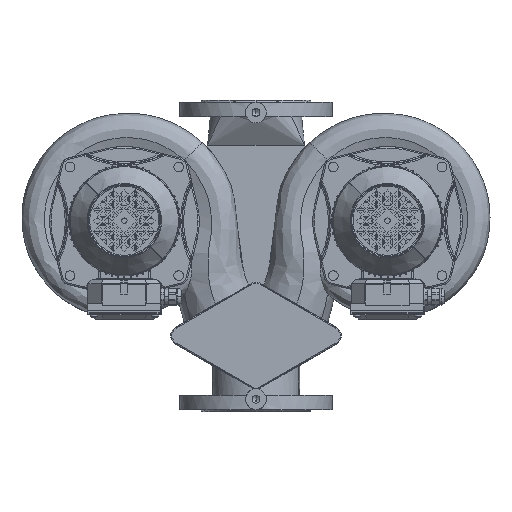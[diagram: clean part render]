
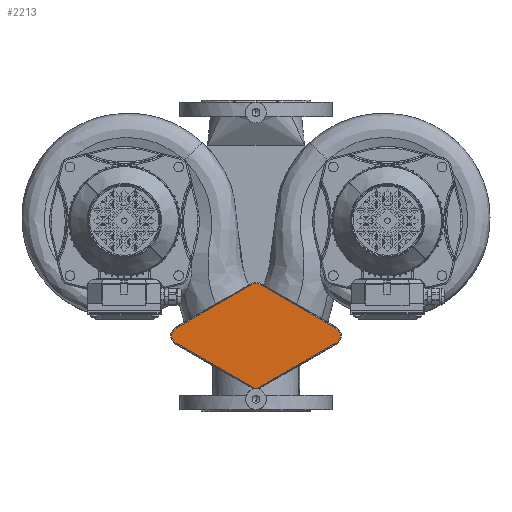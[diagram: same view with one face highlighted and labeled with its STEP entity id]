
A CAD part, top view. The second image highlights one B-rep face of the part: STEP entity #2213.
In plain terms, the highlighted planar face has unit normal (0, 0, 1).
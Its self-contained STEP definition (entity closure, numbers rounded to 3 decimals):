
#2213=ADVANCED_FACE('',(#4302),#4303,.T.);
#4302=FACE_OUTER_BOUND('',#11726,.T.);
#4303=PLANE('',#11727);
#11726=EDGE_LOOP('',(#21323,#21324,#21325,#21326,#21327,#21328,#21329,#21330,#21331,#21332,#21333,#21334));
#11727=AXIS2_PLACEMENT_3D('',#21335,#21336,#21337);
#21323=ORIENTED_EDGE('',*,*,#41713,.F.);
#21324=ORIENTED_EDGE('',*,*,#42427,.F.);
#21325=ORIENTED_EDGE('',*,*,#42414,.F.);
#21326=ORIENTED_EDGE('',*,*,#41724,.F.);
#21327=ORIENTED_EDGE('',*,*,#41728,.F.);
#21328=ORIENTED_EDGE('',*,*,#42410,.F.);
#21329=ORIENTED_EDGE('',*,*,#41734,.F.);
#21330=ORIENTED_EDGE('',*,*,#41738,.F.);
#21331=ORIENTED_EDGE('',*,*,#42406,.F.);
#21332=ORIENTED_EDGE('',*,*,#41743,.F.);
#21333=ORIENTED_EDGE('',*,*,#41717,.F.);
#21334=ORIENTED_EDGE('',*,*,#42425,.F.);
#21335=CARTESIAN_POINT('',(7.,240.124,65.0));
#21336=DIRECTION('',(0.0,0.0,1.0));
#21337=DIRECTION('',(1.0,0.0,0.0));
#41713=EDGE_CURVE('',#62265,#62267,#62268,.T.);
#41717=EDGE_CURVE('',#62271,#62274,#62275,.T.);
#41724=EDGE_CURVE('',#62285,#62287,#62288,.T.);
#41728=EDGE_CURVE('',#62291,#62285,#62294,.T.);
#41734=EDGE_CURVE('',#62302,#62304,#62305,.T.);
#41738=EDGE_CURVE('',#62308,#62302,#62311,.T.);
#41743=EDGE_CURVE('',#62274,#62318,#62319,.T.);
#42406=EDGE_CURVE('',#62318,#62308,#63223,.T.);
#42410=EDGE_CURVE('',#62304,#62291,#63227,.T.);
#42414=EDGE_CURVE('',#62287,#63231,#63232,.T.);
#42425=EDGE_CURVE('',#62267,#62271,#63246,.T.);
#42427=EDGE_CURVE('',#63231,#62265,#63248,.T.);
#62265=VERTEX_POINT('',#69921);
#62267=VERTEX_POINT('',#69934);
#62268=LINE('',#69935,#69936);
#62271=VERTEX_POINT('',#69939);
#62274=VERTEX_POINT('',#69942);
#62275=CIRCLE('',#69943,12.5);
#62285=VERTEX_POINT('',#69954);
#62287=VERTEX_POINT('',#69956);
#62288=LINE('',#69957,#69958);
#62291=VERTEX_POINT('',#69970);
#62294=CIRCLE('',#69973,12.5);
#62302=VERTEX_POINT('',#69982);
#62304=VERTEX_POINT('',#69984);
#62305=LINE('',#69985,#69986);
#62308=VERTEX_POINT('',#69989);
#62311=CIRCLE('',#69992,12.5);
#62318=VERTEX_POINT('',#70000);
#62319=LINE('',#70001,#70002);
#63223=CIRCLE('',#72768,12.5);
#63227=CIRCLE('',#72772,12.5);
#63231=VERTEX_POINT('',#72785);
#63232=CIRCLE('',#72786,14.0);
#63246=CIRCLE('',#72804,12.5);
#63248=CIRCLE('',#72806,14.0);
#69921=CARTESIAN_POINT('',(0.79,241.978,65.0));
#69934=CARTESIAN_POINT('',(115.25,175.894,65.0));
#69935=CARTESIAN_POINT('',(6.25,238.825,65.0));
#69936=VECTOR('',#83552,1.0);
#69939=CARTESIAN_POINT('',(121.5,165.069,65.0));
#69942=CARTESIAN_POINT('',(115.25,154.244,65.0));
#69943=AXIS2_PLACEMENT_3D('',#83559,#83560,#83561);
#69954=CARTESIAN_POINT('',(-115.25,175.894,65.0));
#69956=CARTESIAN_POINT('',(-0.79,241.978,65.0));
#69957=CARTESIAN_POINT('',(-55.5,210.391,65.0));
#69958=VECTOR('',#83575,1.);
#69970=CARTESIAN_POINT('',(-121.5,165.069,65.0));
#69973=AXIS2_PLACEMENT_3D('',#83579,#83580,#83581);
#69982=CARTESIAN_POINT('',(-6.25,91.312,65.0));
#69984=CARTESIAN_POINT('',(-115.25,154.244,65.0));
#69985=CARTESIAN_POINT('',(-33.5,107.045,65.0));
#69986=VECTOR('',#83592,1.);
#69989=CARTESIAN_POINT('',(0.,89.638,65.0));
#69992=AXIS2_PLACEMENT_3D('',#83599,#83600,#83601);
#70000=CARTESIAN_POINT('',(6.25,91.312,65.0));
#70001=CARTESIAN_POINT('',(93.25,141.542,65.0));
#70002=VECTOR('',#83609,1.0);
#72768=AXIS2_PLACEMENT_3D('',#84047,#84048,#84049);
#72772=AXIS2_PLACEMENT_3D('',#84053,#84054,#84055);
#72785=CARTESIAN_POINT('',(0.,242.0,65.0));
#72786=AXIS2_PLACEMENT_3D('',#84056,#84057,#84058);
#72804=AXIS2_PLACEMENT_3D('',#84072,#84073,#84074);
#72806=AXIS2_PLACEMENT_3D('',#84075,#84076,#84077);
#83552=DIRECTION('',(0.866,-0.5,0.0));
#83559=CARTESIAN_POINT('',(109.0,165.069,65.0));
#83560=DIRECTION('',(0.0,0.0,-1.0));
#83561=DIRECTION('',(1.0,0.0,0.0));
#83575=DIRECTION('',(0.866,0.5,0.0));
#83579=CARTESIAN_POINT('',(-109.0,165.069,65.0));
#83580=DIRECTION('',(0.0,0.0,-1.0));
#83581=DIRECTION('',(-1.0,0.0,0.0));
#83592=DIRECTION('',(-0.866,0.5,0.0));
#83599=CARTESIAN_POINT('',(0.,102.138,65.0));
#83600=DIRECTION('',(0.0,0.0,-1.0));
#83601=DIRECTION('',(0.,-1.0,0.0));
#83609=DIRECTION('',(-0.866,-0.5,0.0));
#84047=CARTESIAN_POINT('',(0.,102.138,65.0));
#84048=DIRECTION('',(0.0,0.0,-1.0));
#84049=DIRECTION('',(0.,-1.0,0.0));
#84053=CARTESIAN_POINT('',(-109.0,165.069,65.0));
#84054=DIRECTION('',(0.0,0.0,-1.0));
#84055=DIRECTION('',(-1.0,0.0,0.0));
#84056=CARTESIAN_POINT('',(0.,228.0,65.0));
#84057=DIRECTION('',(0.0,0.0,-1.0));
#84058=DIRECTION('',(0.5,0.866,0.0));
#84072=CARTESIAN_POINT('',(109.0,165.069,65.0));
#84073=DIRECTION('',(0.0,0.0,-1.0));
#84074=DIRECTION('',(1.0,0.0,0.0));
#84075=CARTESIAN_POINT('',(0.,228.0,65.0));
#84076=DIRECTION('',(0.0,0.0,-1.0));
#84077=DIRECTION('',(0.5,0.866,0.0));
